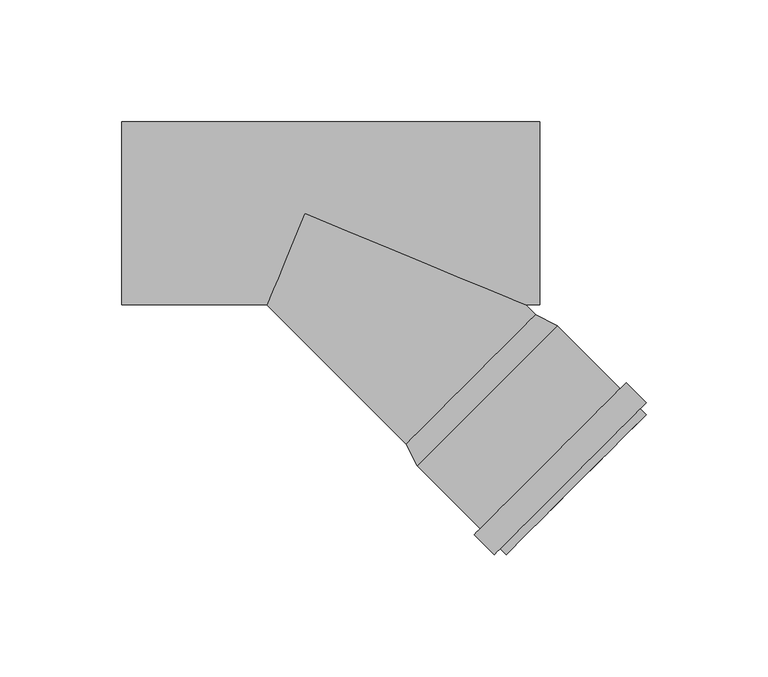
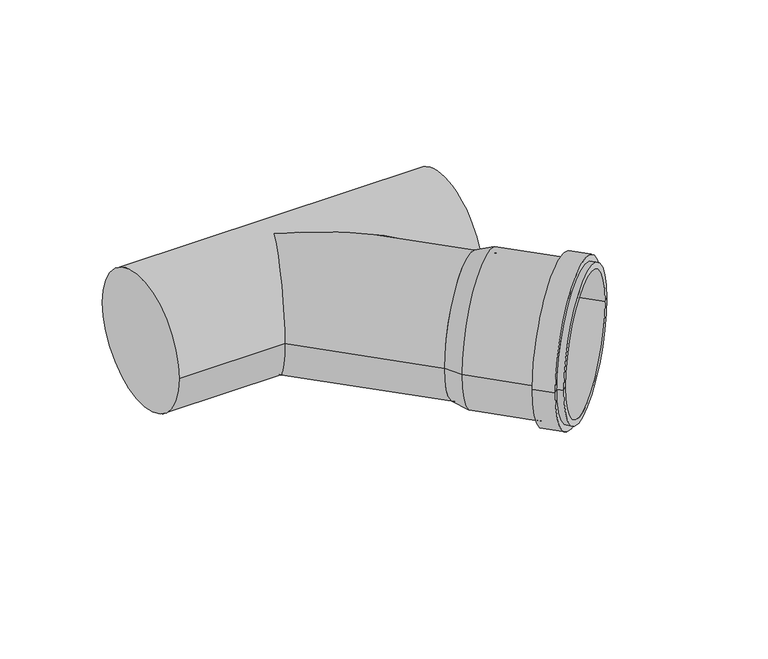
"""IFC4 building model written with IfcOpenShell, lengths in millimetres: pipe fitting geometry, pf_HTEA : pf_HTEA."""

from ifc_helpers import new_model, si_unit, frame, origin, place, context, project, spatial, polyline, circle_curve, ellipse_curve, source, transform, mapped, element, save
from ifc_brep_helpers import plane_surface, cylinder_surface, revolved_surface, advanced_brep


def pipe_fitting_665a8a78(model_context):
    return source(origin(), model_context, "Body", "AdvancedBrep", [
        advanced_brep(
        [(41.5425234, -94.575532, 0.0), (94.575532, -41.5425234, 0.0), (103.4850774, -46.0680068, 0.0), (46.0680068, -103.4850774, 0.0), (68.0590277, -68.0590277, 0.0), (82.484006, -139.9010767, 0.0), (139.9010767, -82.484006, 0.0), (137.7090456, -84.676037, 0.0), (84.676037, -137.7090456, 0.0), (80.079843, -137.4969136, 0.0), (137.4969136, -80.079843, 0.0), (77.6756799, -139.9010767, 0.0), (139.9010767, -77.6756799, 0.0), (69.4732413, -131.698638, 0.0), (131.698638, -69.4732413, 0.0), (71.8774043, -129.2944749, 0.0), (129.2944749, -71.8774043, 0.0), (48.2600378, -101.2930464, 0.0), (101.2930464, -48.2600378, 0.0), (74.7765421, -74.7765421, 0.0)],
        [
            (0, 1, circle_curve(frame((68.0590277, -68.0590277, 0.0), z_axis=(0.7071067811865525, -0.7071067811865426, 0.0), x_axis=(0.7071067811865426, 0.7071067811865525, 0.0)), 37.5)),
            (1, 2),
            (2, 3, circle_curve(frame((74.7765421, -74.7765421, 0.0), z_axis=(-0.7071067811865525, 0.7071067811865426, 0.0), x_axis=(0.7071067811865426, 0.7071067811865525, 0.0)), 40.6)),
            (3, 0),
            (1, 0, circle_curve(frame((68.0590277, -68.0590277, 0.0), z_axis=(0.7071067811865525, -0.7071067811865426, 0.0), x_axis=(0.7071067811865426, 0.7071067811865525, 0.0)), 37.5)),
            (3, 2, circle_curve(frame((74.7765421, -74.7765421, 0.0), z_axis=(-0.7071067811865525, 0.7071067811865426, 0.0), x_axis=(0.7071067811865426, 0.7071067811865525, 0.0)), 40.6)),
            (4, 1),
            (0, 4),
            (5, 6, circle_curve(frame((111.1925413, -111.1925413, 0.0), z_axis=(0.7071067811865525, -0.7071067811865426, 0.0), x_axis=(0.7071067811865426, 0.7071067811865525, 0.0)), 40.6)),
            (6, 7),
            (7, 8, circle_curve(frame((111.1925413, -111.1925413, 0.0), z_axis=(-0.7071067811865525, 0.7071067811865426, 0.0), x_axis=(0.7071067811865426, 0.7071067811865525, 0.0)), 37.5)),
            (8, 5),
            (6, 5, circle_curve(frame((111.1925413, -111.1925413, 0.0), z_axis=(0.7071067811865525, -0.7071067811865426, 0.0), x_axis=(0.7071067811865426, 0.7071067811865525, 0.0)), 40.6)),
            (8, 7, circle_curve(frame((111.1925413, -111.1925413, 0.0), z_axis=(-0.7071067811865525, 0.7071067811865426, 0.0), x_axis=(0.7071067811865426, 0.7071067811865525, 0.0)), 37.5)),
            (9, 10, circle_curve(frame((108.7883783, -108.7883783, 0.0), z_axis=(0.7071067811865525, -0.7071067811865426, 0.0), x_axis=(0.7071067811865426, 0.7071067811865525, 0.0)), 40.6)),
            (10, 6),
            (5, 9),
            (10, 9, circle_curve(frame((108.7883783, -108.7883783, 0.0), z_axis=(0.7071067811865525, -0.7071067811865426, 0.0), x_axis=(0.7071067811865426, 0.7071067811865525, 0.0)), 40.6)),
            (11, 12, circle_curve(frame((108.7883783, -108.7883783, 0.0), z_axis=(0.7071067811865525, -0.7071067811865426, 0.0), x_axis=(0.7071067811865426, 0.7071067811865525, 0.0)), 44.0)),
            (12, 10),
            (9, 11),
            (12, 11, circle_curve(frame((108.7883783, -108.7883783, 0.0), z_axis=(0.7071067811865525, -0.7071067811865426, 0.0), x_axis=(0.7071067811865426, 0.7071067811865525, 0.0)), 44.0)),
            (13, 14, circle_curve(frame((100.5859396, -100.5859396, 0.0), z_axis=(0.7071067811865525, -0.7071067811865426, 0.0), x_axis=(0.7071067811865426, 0.7071067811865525, 0.0)), 44.0)),
            (14, 12),
            (11, 13),
            (14, 13, circle_curve(frame((100.5859396, -100.5859396, 0.0), z_axis=(0.7071067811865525, -0.7071067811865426, 0.0), x_axis=(0.7071067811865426, 0.7071067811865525, 0.0)), 44.0)),
            (15, 16, circle_curve(frame((100.5859396, -100.5859396, 0.0), z_axis=(0.7071067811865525, -0.7071067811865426, 0.0), x_axis=(0.7071067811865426, 0.7071067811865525, 0.0)), 40.6)),
            (16, 14),
            (13, 15),
            (16, 15, circle_curve(frame((100.5859396, -100.5859396, 0.0), z_axis=(0.7071067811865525, -0.7071067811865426, 0.0), x_axis=(0.7071067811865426, 0.7071067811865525, 0.0)), 40.6)),
            (2, 16),
            (15, 3),
            (17, 18, circle_curve(frame((74.7765421, -74.7765421, 0.0), z_axis=(0.7071067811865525, -0.7071067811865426, 0.0), x_axis=(0.7071067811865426, 0.7071067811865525, 0.0)), 37.5)),
            (18, 19),
            (19, 17),
            (18, 17, circle_curve(frame((74.7765421, -74.7765421, 0.0), z_axis=(0.7071067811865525, -0.7071067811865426, 0.0), x_axis=(0.7071067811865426, 0.7071067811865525, 0.0)), 37.5)),
            (7, 18),
            (17, 8),
        ],
        [
            revolved_surface(polyline([(103.4850774, -46.0680068, 0.0), (94.575532, -41.5425234, 0.0)]), (68.0590277, -68.0590277, 0.0), (-0.7071067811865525, 0.7071067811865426, 0.0)),
            plane_surface(frame((68.0590277, -68.0590277, 0.0), z_axis=(-0.7071067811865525, 0.7071067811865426, 0.0), x_axis=(0.7071067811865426, 0.7071067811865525, 0.0))),
            plane_surface(frame((111.1925413, -111.1925413, 0.0), z_axis=(0.7071067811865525, -0.7071067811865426, 0.0), x_axis=(0.7071067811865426, 0.7071067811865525, 0.0))),
            cylinder_surface(frame((68.0590277, -68.0590277, 0.0), z_axis=(-0.7071067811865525, 0.7071067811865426, 0.0), x_axis=(0.7071067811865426, 0.7071067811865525, 0.0)), 40.6),
            plane_surface(frame((108.7883783, -108.7883783, 0.0), z_axis=(0.7071067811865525, -0.7071067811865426, 0.0), x_axis=(0.7071067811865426, 0.7071067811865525, 0.0))),
            cylinder_surface(frame((68.0590277, -68.0590277, 0.0), z_axis=(-0.7071067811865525, 0.7071067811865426, 0.0), x_axis=(0.7071067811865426, 0.7071067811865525, 0.0)), 44.0),
            plane_surface(frame((100.5859396, -100.5859396, 0.0), z_axis=(-0.7071067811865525, 0.7071067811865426, 0.0), x_axis=(0.7071067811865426, 0.7071067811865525, 0.0))),
            plane_surface(frame((74.7765421, -74.7765421, 0.0), z_axis=(0.7071067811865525, -0.7071067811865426, 0.0), x_axis=(0.7071067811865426, 0.7071067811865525, 0.0))),
            revolved_surface(polyline([(101.2930463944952, -48.26003780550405, 0.0), (137.70904559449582, -84.67603700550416, 0.0)]), (68.0590277, -68.0590277, 0.0), (-0.7071067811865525, 0.7071067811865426, 0.0)),
        ],
        [
            (0, [[1, 2, 3, 4]]),
            (0, [[5, -4, 6, -2]]),
            (1, [[7, -1, 8]]),
            (1, [[-8, -5, -7]]),
            (2, [[9, 10, 11, 12]]),
            (2, [[13, -12, 14, -10]]),
            (3, [[15, 16, -9, 17]]),
            (3, [[18, -17, -13, -16]]),
            (4, [[19, 20, -15, 21]]),
            (4, [[22, -21, -18, -20]]),
            (5, [[23, 24, -19, 25]]),
            (5, [[26, -25, -22, -24]]),
            (6, [[27, 28, -23, 29]]),
            (6, [[30, -29, -26, -28]]),
            (3, [[-3, 31, -27, 32]]),
            (3, [[-6, -32, -30, -31]]),
            (7, [[33, 34, 35]]),
            (7, [[36, -35, -34]]),
            (8, [[-11, 37, -33, 38]]),
            (8, [[-14, -38, -36, -37]]),
        ],
    ),
        advanced_brep(
        [(41.5425234, -94.575532, 0.0), (94.575532, -41.5425234, 0.0), (-75.0, -37.5, 0.0), (-75.0, 37.5, 0.0), (96.25, -37.5, 0.0), (96.25, 37.5, 0.0), (-15.5330086, -37.5, 0.0), (0.0, 0.0, 37.5), (90.5330086, -37.5, 0.0), (0.0, 0.0, -37.5)],
        [
            (0, 1, circle_curve(frame((68.0590277, -68.0590277, 0.0), z_axis=(0.7071067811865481, -0.7071067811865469, 0.0), x_axis=(0.7071067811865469, 0.7071067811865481, 0.0)), 37.5)),
            (1, 0, circle_curve(frame((68.0590277, -68.0590277, 0.0), z_axis=(0.7071067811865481, -0.7071067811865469, 0.0), x_axis=(0.7071067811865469, 0.7071067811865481, 0.0)), 37.5)),
            (2, 3, circle_curve(frame((-75.0, 0.0, 0.0), z_axis=(-1.0, 0.0, 0.0), x_axis=(0.0, 1.0, 0.0)), 37.5)),
            (3, 2, circle_curve(frame((-75.0, 0.0, 0.0), z_axis=(-1.0, 0.0, 0.0), x_axis=(0.0, 1.0, 0.0)), 37.5)),
            (4, 5, circle_curve(frame((96.25, 0.0, 0.0), z_axis=(1.0, 0.0, 0.0), x_axis=(0.0, 1.0, 0.0)), 37.5)),
            (5, 4, circle_curve(frame((96.25, 0.0, 0.0), z_axis=(1.0, 0.0, 0.0), x_axis=(0.0, 1.0, 0.0)), 37.5)),
            (2, 6),
            (6, 7, ellipse_curve(frame((0.0, 0.0, 0.0), z_axis=(-0.923879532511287, 0.3826834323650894, 0.0), x_axis=(-0.3826834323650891, -0.9238795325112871, 0.0)), 40.5897075, 37.5)),
            (7, 8, ellipse_curve(frame((0.0, 0.0, 0.0), z_axis=(0.3826834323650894, 0.923879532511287, 0.0), x_axis=(-0.923879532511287, 0.38268343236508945, 0.0)), 97.9922224, 37.5)),
            (8, 4),
            (5, 3),
            (8, 9, ellipse_curve(frame((0.0, 0.0, 0.0), z_axis=(0.3826834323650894, 0.923879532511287, 0.0), x_axis=(-0.923879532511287, 0.38268343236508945, 0.0)), 97.9922224, 37.5)),
            (9, 6, ellipse_curve(frame((0.0, 0.0, 0.0), z_axis=(-0.923879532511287, 0.3826834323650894, 0.0), x_axis=(-0.3826834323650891, -0.9238795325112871, 0.0)), 40.5897075, 37.5)),
            (1, 8),
            (6, 0),
        ],
        [
            plane_surface(frame((68.0590277, -68.0590277, 0.0), z_axis=(0.7071067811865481, -0.7071067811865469, 0.0), x_axis=(0.0, 0.0, 1.0))),
            plane_surface(frame((-75.0, 0.0, 0.0), z_axis=(-1.0, 0.0, 0.0), x_axis=(0.0, 0.0, 1.0))),
            plane_surface(frame((96.25, 0.0, 0.0), z_axis=(1.0, 0.0, 0.0), x_axis=(0.0, 0.0, 1.0))),
            cylinder_surface(frame((-75.0, 0.0, 0.0), z_axis=(-1.0, 0.0, 0.0), x_axis=(0.0, 1.0, 0.0)), 37.5),
            cylinder_surface(frame((0.0, 0.0, 0.0), z_axis=(-0.7071067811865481, 0.7071067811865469, 0.0), x_axis=(0.7071067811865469, 0.7071067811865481, 0.0)), 37.5),
        ],
        [
            (0, [[1, 2]]),
            (1, [[3, 4]]),
            (2, [[5, 6]]),
            (3, [[-3, 7, 8, 9, 10, -6, 11]]),
            (3, [[-4, -11, -5, -10, 12, 13, -7]]),
            (4, [[-2, 14, -9, -8, 15]]),
            (4, [[-1, -15, -13, -12, -14]]),
        ],
    ),
    ])


if __name__ == "__main__":
    model = new_model("IFC4")
    model_context = context("Model", 3, world=origin())
    ifc_project = project(units=[si_unit("LENGTHUNIT", "METRE", prefix="MILLI")], contexts=[model_context])
    site = spatial("IfcSite", under=ifc_project)
    building = spatial("IfcBuilding", under=site)
    placement = place(None, origin())
    pipe_fitting_shape = pipe_fitting_665a8a78(model_context)
    element("IfcPipeFitting", 1, ObjectType="pf_HTEA : pf_HTEA", at=placement, inside=building, context=model_context, shape_type="MappedRepresentation", body=[
        mapped(pipe_fitting_shape, transform((0.0, 0.0, 0.0), x_axis=(1.0, 0.0, 0.0), y_axis=(0.0, 1.0, 0.0), z_axis=(0.0, 0.0, 1.0))),
    ])
    save(model, "model.ifc")
